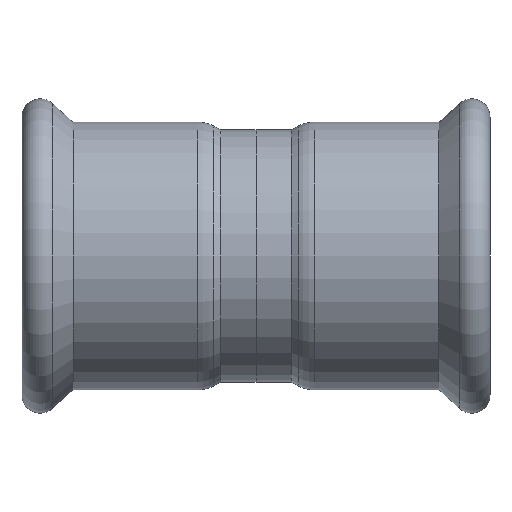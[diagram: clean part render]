
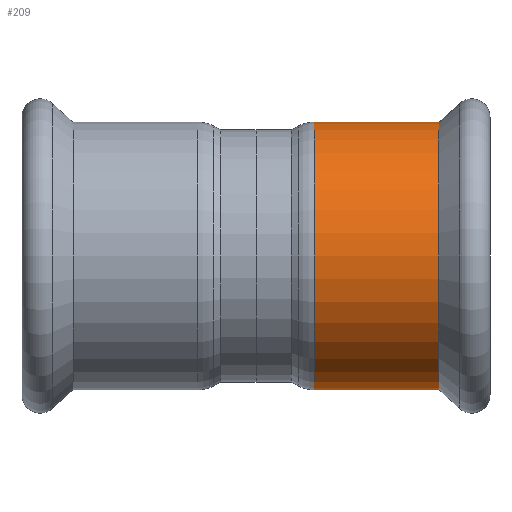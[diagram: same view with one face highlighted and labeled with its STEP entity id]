
A CAD part, front view. The second image highlights one B-rep face of the part: STEP entity #209.
In plain terms, the highlighted cylindrical face has radius 40.35 mm (diameter 80.7 mm), a partial arc.
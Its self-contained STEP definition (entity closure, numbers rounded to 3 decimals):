
#75 = DIRECTION ( 'NONE',  ( 0., 0., 1. ) ) ;
#102 = ORIENTED_EDGE ( 'NONE', *, *, #1153, .F. ) ;
#114 = DIRECTION ( 'NONE',  ( -1., 0., 0. ) ) ;
#126 = CARTESIAN_POINT ( 'NONE',  ( 17.5, 0., -40.35 ) ) ;
#163 = CARTESIAN_POINT ( 'NONE',  ( 17.5, 0., 40.35 ) ) ;
#185 = AXIS2_PLACEMENT_3D ( 'NONE', #207, #1167, #75 ) ;
#207 = CARTESIAN_POINT ( 'NONE',  ( 17.5, 0., 0. ) ) ;
#209 = ADVANCED_FACE ( 'NONE', ( #514 ), #453, .T. ) ;
#242 = CARTESIAN_POINT ( 'NONE',  ( -47.221, 0., 40.35 ) ) ;
#269 = EDGE_CURVE ( 'NONE', #273, #1327, #554, .T. ) ;
#273 = VERTEX_POINT ( 'NONE', #381 ) ;
#357 = DIRECTION ( 'NONE',  ( -1., 0., 0. ) ) ;
#381 = CARTESIAN_POINT ( 'NONE',  ( 55.114, 0., -40.35 ) ) ;
#424 = EDGE_LOOP ( 'NONE', ( #715, #830, #1234, #102 ) ) ;
#453 = CYLINDRICAL_SURFACE ( 'NONE', #1759, 40.35 ) ;
#514 = FACE_OUTER_BOUND ( 'NONE', #424, .T. ) ;
#554 = LINE ( 'NONE', #1471, #883 ) ;
#567 = VERTEX_POINT ( 'NONE', #163 ) ;
#715 = ORIENTED_EDGE ( 'NONE', *, *, #269, .F. ) ;
#791 = VECTOR ( 'NONE', #1329, 1000. ) ;
#829 = EDGE_CURVE ( 'NONE', #273, #1228, #1460, .T. ) ;
#830 = ORIENTED_EDGE ( 'NONE', *, *, #829, .T. ) ;
#842 = AXIS2_PLACEMENT_3D ( 'NONE', #1343, #929, #1652 ) ;
#856 = CIRCLE ( 'NONE', #185, 40.35 ) ;
#883 = VECTOR ( 'NONE', #114, 1000. ) ;
#922 = LINE ( 'NONE', #242, #791 ) ;
#929 = DIRECTION ( 'NONE',  ( -1., 0., 0. ) ) ;
#1059 = CARTESIAN_POINT ( 'NONE',  ( 55.114, 0., 40.35 ) ) ;
#1153 = EDGE_CURVE ( 'NONE', #1327, #567, #856, .T. ) ;
#1167 = DIRECTION ( 'NONE',  ( -1., 0., 0. ) ) ;
#1188 = DIRECTION ( 'NONE',  ( 0., 0., 1. ) ) ;
#1197 = EDGE_CURVE ( 'NONE', #1228, #567, #922, .T. ) ;
#1228 = VERTEX_POINT ( 'NONE', #1059 ) ;
#1234 = ORIENTED_EDGE ( 'NONE', *, *, #1197, .T. ) ;
#1327 = VERTEX_POINT ( 'NONE', #126 ) ;
#1329 = DIRECTION ( 'NONE',  ( -1., 0., 0. ) ) ;
#1343 = CARTESIAN_POINT ( 'NONE',  ( 55.114, 0., 0. ) ) ;
#1459 = CARTESIAN_POINT ( 'NONE',  ( -47.221, 0., 0. ) ) ;
#1460 = CIRCLE ( 'NONE', #842, 40.35 ) ;
#1471 = CARTESIAN_POINT ( 'NONE',  ( -47.221, 0., -40.35 ) ) ;
#1652 = DIRECTION ( 'NONE',  ( 0., 0., 1. ) ) ;
#1759 = AXIS2_PLACEMENT_3D ( 'NONE', #1459, #357, #1188 ) ;
